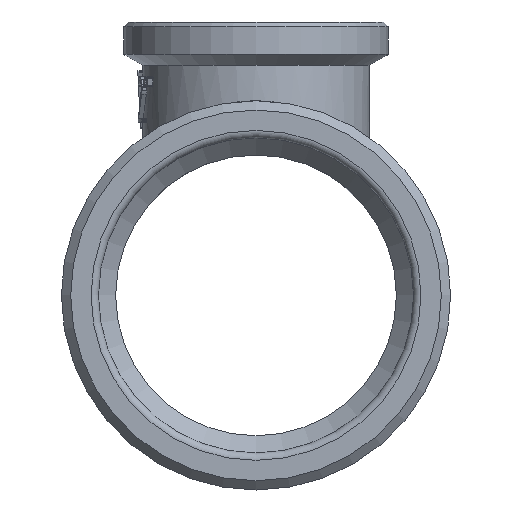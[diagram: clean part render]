
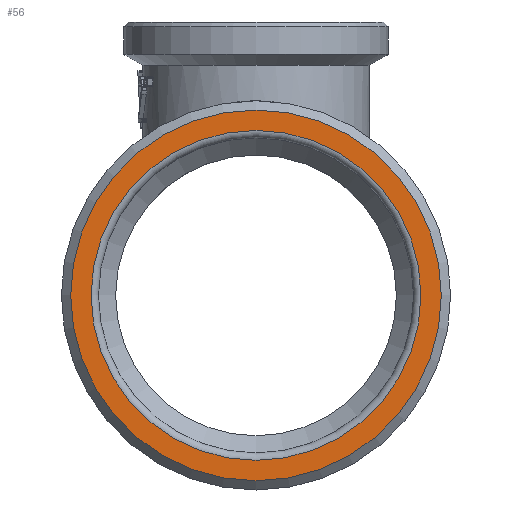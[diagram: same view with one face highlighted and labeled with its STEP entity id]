
A CAD part, front view. The second image highlights one B-rep face of the part: STEP entity #56.
In plain terms, the highlighted planar face has unit normal (0, -1, 0).
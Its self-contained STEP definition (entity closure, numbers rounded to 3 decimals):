
#56=ADVANCED_FACE('',(#378,#380),#382,.F.);
#378=FACE_BOUND('',#379,.T.);
#379=EDGE_LOOP('',(#2182));
#380=FACE_BOUND('',#381,.T.);
#381=EDGE_LOOP('',(#2183));
#382=PLANE('',#383);
#383=AXIS2_PLACEMENT_3D('',#384,#385,#386);
#384=CARTESIAN_POINT('',(0.,-28.,0.));
#385=DIRECTION('',(0.,1.,0.));
#386=DIRECTION('',(-1.,0.,0.));
#2182=ORIENTED_EDGE('',*,*,#3612,.F.);
#2183=ORIENTED_EDGE('',*,*,#3613,.T.);
#3612=EDGE_CURVE('',#4264,#4264,#4265,.T.);
#3613=EDGE_CURVE('',#4266,#4266,#4267,.T.);
#4264=VERTEX_POINT('',#6128);
#4265=CIRCLE('',#6129,20.);
#4266=VERTEX_POINT('',#6133);
#4267=CIRCLE('',#6134,17.8);
#6128=CARTESIAN_POINT('',(-20.,-28.,0.));
#6129=AXIS2_PLACEMENT_3D('',#6130,#6131,#6132);
#6130=CARTESIAN_POINT('',(0.,-28.,0.));
#6131=DIRECTION('',(0.,1.,0.));
#6132=DIRECTION('',(-1.,0.,0.));
#6133=CARTESIAN_POINT('',(-17.8,-28.,0.));
#6134=AXIS2_PLACEMENT_3D('',#6135,#6136,#6137);
#6135=CARTESIAN_POINT('',(0.,-28.,0.));
#6136=DIRECTION('',(0.,1.,0.));
#6137=DIRECTION('',(-1.,0.,0.));
